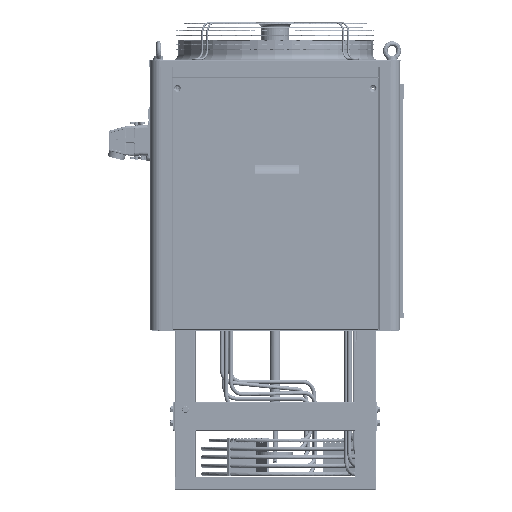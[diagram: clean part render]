
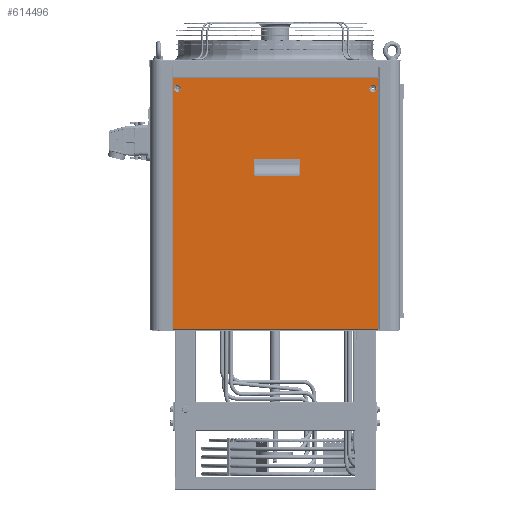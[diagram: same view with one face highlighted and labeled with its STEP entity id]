
A CAD part, front view. The second image highlights one B-rep face of the part: STEP entity #614496.
In plain terms, the highlighted planar face has unit normal (0, -1, 0) as drawn and (0, 0, 1) by its records, which use the part's own axes.
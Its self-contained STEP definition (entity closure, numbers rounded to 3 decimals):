
#9769 = CIRCLE ( 'NONE', #480434, 8.556 ) ;
#16086 = CARTESIAN_POINT ( 'NONE',  ( 233.3, -275.15, 0. ) ) ;
#20529 = VERTEX_POINT ( 'NONE', #426231 ) ;
#23578 = AXIS2_PLACEMENT_3D ( 'NONE', #806817, #110968, #420780 ) ;
#25193 = CARTESIAN_POINT ( 'NONE',  ( -56.726, -64.95, 0. ) ) ;
#37622 = ORIENTED_EDGE ( 'NONE', *, *, #786381, .T. ) ;
#47617 = FACE_BOUND ( 'NONE', #687822, .T. ) ;
#48574 = EDGE_LOOP ( 'NONE', ( #84873, #401777, #858245, #858006 ) ) ;
#53879 = CARTESIAN_POINT ( 'NONE',  ( 48.274, -64.95, 0. ) ) ;
#63864 = DIRECTION ( 'NONE',  ( 0., 0., -1. ) ) ;
#64238 = CARTESIAN_POINT ( 'NONE',  ( 233.3, -266.594, 0. ) ) ;
#78689 = VECTOR ( 'NONE', #449391, 1000. ) ;
#84873 = ORIENTED_EDGE ( 'NONE', *, *, #504350, .T. ) ;
#95947 = CARTESIAN_POINT ( 'NONE',  ( 244.8, 298.65, 0. ) ) ;
#100445 = CARTESIAN_POINT ( 'NONE',  ( 233.3, -283.706, 0. ) ) ;
#103776 = FACE_BOUND ( 'NONE', #677221, .T. ) ;
#110968 = DIRECTION ( 'NONE',  ( 0., 0., -1. ) ) ;
#133460 = DIRECTION ( 'NONE',  ( 0., -1., 0. ) ) ;
#139546 = CARTESIAN_POINT ( 'NONE',  ( 244.8, -300.15, 0. ) ) ;
#147142 = ORIENTED_EDGE ( 'NONE', *, *, #275649, .F. ) ;
#150021 = CARTESIAN_POINT ( 'NONE',  ( -233.3, -275.15, 0. ) ) ;
#168368 = VERTEX_POINT ( 'NONE', #25193 ) ;
#240948 = EDGE_CURVE ( 'NONE', #20529, #573585, #921541, .T. ) ;
#244707 = VERTEX_POINT ( 'NONE', #53879 ) ;
#255627 = CARTESIAN_POINT ( 'NONE',  ( 48.274, -95.15, 0. ) ) ;
#275327 = LINE ( 'NONE', #452725, #827677 ) ;
#275649 = EDGE_CURVE ( 'NONE', #168368, #364786, #966893, .T. ) ;
#279510 = CARTESIAN_POINT ( 'NONE',  ( -56.726, -95.15, 0. ) ) ;
#300111 = EDGE_CURVE ( 'NONE', #244707, #168368, #485639, .T. ) ;
#313450 = LINE ( 'NONE', #475979, #572307 ) ;
#327912 = CIRCLE ( 'NONE', #457650, 8.556 ) ;
#345186 = EDGE_CURVE ( 'NONE', #511757, #453250, #1005124, .T. ) ;
#345939 = VECTOR ( 'NONE', #534648, 1000. ) ;
#353962 = VERTEX_POINT ( 'NONE', #954326 ) ;
#354177 = VECTOR ( 'NONE', #877723, 1000. ) ;
#357859 = LINE ( 'NONE', #677657, #370441 ) ;
#364786 = VERTEX_POINT ( 'NONE', #279510 ) ;
#366929 = ORIENTED_EDGE ( 'NONE', *, *, #367123, .T. ) ;
#367123 = EDGE_CURVE ( 'NONE', #453250, #511757, #488109, .T. ) ;
#370441 = VECTOR ( 'NONE', #820116, 1000. ) ;
#395667 = EDGE_LOOP ( 'NONE', ( #147142, #746278, #768934, #874357 ) ) ;
#400509 = CARTESIAN_POINT ( 'NONE',  ( -244.8, -298.65, 0. ) ) ;
#401777 = ORIENTED_EDGE ( 'NONE', *, *, #853672, .T. ) ;
#417147 = DIRECTION ( 'NONE',  ( 0., -1., 0. ) ) ;
#420779 = LINE ( 'NONE', #95947, #620895 ) ;
#420780 = DIRECTION ( 'NONE',  ( 0., -1., 0. ) ) ;
#426231 = CARTESIAN_POINT ( 'NONE',  ( 244.8, -298.65, 0. ) ) ;
#428634 = PLANE ( 'NONE',  #769380 ) ;
#439548 = AXIS2_PLACEMENT_3D ( 'NONE', #16086, #488350, #417147 ) ;
#440130 = VERTEX_POINT ( 'NONE', #512995 ) ;
#443054 = CARTESIAN_POINT ( 'NONE',  ( -233.3, -283.706, 0. ) ) ;
#449391 = DIRECTION ( 'NONE',  ( 0., 1., 0. ) ) ;
#452725 = CARTESIAN_POINT ( 'NONE',  ( 0., -95.15, 0. ) ) ;
#453250 = VERTEX_POINT ( 'NONE', #100445 ) ;
#453844 = CARTESIAN_POINT ( 'NONE',  ( -244.8, -298.65, 0. ) ) ;
#457650 = AXIS2_PLACEMENT_3D ( 'NONE', #150021, #63864, #464900 ) ;
#460852 = VERTEX_POINT ( 'NONE', #443054 ) ;
#464900 = DIRECTION ( 'NONE',  ( 0., -1., 0. ) ) ;
#475979 = CARTESIAN_POINT ( 'NONE',  ( 48.274, 0., 0. ) ) ;
#480434 = AXIS2_PLACEMENT_3D ( 'NONE', #905559, #499576, #133460 ) ;
#485639 = LINE ( 'NONE', #886668, #817992 ) ;
#488109 = CIRCLE ( 'NONE', #439548, 8.556 ) ;
#488350 = DIRECTION ( 'NONE',  ( 0., 0., -1. ) ) ;
#489811 = DIRECTION ( 'NONE',  ( 0., 0., 1. ) ) ;
#490603 = DIRECTION ( 'NONE',  ( -1., 0., 0. ) ) ;
#499576 = DIRECTION ( 'NONE',  ( 0., 0., -1. ) ) ;
#504350 = EDGE_CURVE ( 'NONE', #353962, #526500, #357859, .T. ) ;
#506983 = VERTEX_POINT ( 'NONE', #255627 ) ;
#511757 = VERTEX_POINT ( 'NONE', #64238 ) ;
#512995 = CARTESIAN_POINT ( 'NONE',  ( -233.3, -266.594, 0. ) ) ;
#523933 = DIRECTION ( 'NONE',  ( 1., 0., 0. ) ) ;
#526500 = VERTEX_POINT ( 'NONE', #453844 ) ;
#534648 = DIRECTION ( 'NONE',  ( 0., -1., 0. ) ) ;
#567908 = LINE ( 'NONE', #400509, #354177 ) ;
#570993 = FACE_OUTER_BOUND ( 'NONE', #48574, .T. ) ;
#572307 = VECTOR ( 'NONE', #780729, 1000. ) ;
#573183 = DIRECTION ( 'NONE',  ( -1., 0., 0. ) ) ;
#573585 = VERTEX_POINT ( 'NONE', #980659 ) ;
#580913 = CARTESIAN_POINT ( 'NONE',  ( -56.726, 0., 0. ) ) ;
#600950 = EDGE_CURVE ( 'NONE', #364786, #506983, #275327, .T. ) ;
#613082 = ORIENTED_EDGE ( 'NONE', *, *, #345186, .T. ) ;
#614496 = ADVANCED_FACE ( 'NONE', ( #103776, #47617, #657235, #570993 ), #428634, .T. ) ;
#620895 = VECTOR ( 'NONE', #573183, 1000. ) ;
#635261 = EDGE_CURVE ( 'NONE', #460852, #440130, #327912, .T. ) ;
#657235 = FACE_BOUND ( 'NONE', #395667, .T. ) ;
#677221 = EDGE_LOOP ( 'NONE', ( #366929, #613082 ) ) ;
#677657 = CARTESIAN_POINT ( 'NONE',  ( -244.8, 300.15, 0. ) ) ;
#687822 = EDGE_LOOP ( 'NONE', ( #819139, #37622 ) ) ;
#704258 = EDGE_CURVE ( 'NONE', #573585, #353962, #420779, .T. ) ;
#746278 = ORIENTED_EDGE ( 'NONE', *, *, #300111, .F. ) ;
#768934 = ORIENTED_EDGE ( 'NONE', *, *, #969571, .F. ) ;
#769380 = AXIS2_PLACEMENT_3D ( 'NONE', #967024, #489811, #895834 ) ;
#780729 = DIRECTION ( 'NONE',  ( 0., 1., 0. ) ) ;
#786381 = EDGE_CURVE ( 'NONE', #440130, #460852, #9769, .T. ) ;
#806817 = CARTESIAN_POINT ( 'NONE',  ( 233.3, -275.15, 0. ) ) ;
#817992 = VECTOR ( 'NONE', #490603, 1000. ) ;
#819139 = ORIENTED_EDGE ( 'NONE', *, *, #635261, .T. ) ;
#820116 = DIRECTION ( 'NONE',  ( 0., -1., 0. ) ) ;
#827677 = VECTOR ( 'NONE', #523933, 1000. ) ;
#853672 = EDGE_CURVE ( 'NONE', #526500, #20529, #567908, .T. ) ;
#858006 = ORIENTED_EDGE ( 'NONE', *, *, #704258, .T. ) ;
#858245 = ORIENTED_EDGE ( 'NONE', *, *, #240948, .T. ) ;
#874357 = ORIENTED_EDGE ( 'NONE', *, *, #600950, .F. ) ;
#877723 = DIRECTION ( 'NONE',  ( 1., 0., 0. ) ) ;
#886668 = CARTESIAN_POINT ( 'NONE',  ( 0., -64.95, 0. ) ) ;
#895834 = DIRECTION ( 'NONE',  ( 1., 0., 0. ) ) ;
#905559 = CARTESIAN_POINT ( 'NONE',  ( -233.3, -275.15, 0. ) ) ;
#921541 = LINE ( 'NONE', #139546, #78689 ) ;
#954326 = CARTESIAN_POINT ( 'NONE',  ( -244.8, 298.65, 0. ) ) ;
#966893 = LINE ( 'NONE', #580913, #345939 ) ;
#967024 = CARTESIAN_POINT ( 'NONE',  ( 0., 0., 0. ) ) ;
#969571 = EDGE_CURVE ( 'NONE', #506983, #244707, #313450, .T. ) ;
#980659 = CARTESIAN_POINT ( 'NONE',  ( 244.8, 298.65, 0. ) ) ;
#1005124 = CIRCLE ( 'NONE', #23578, 8.556 ) ;
